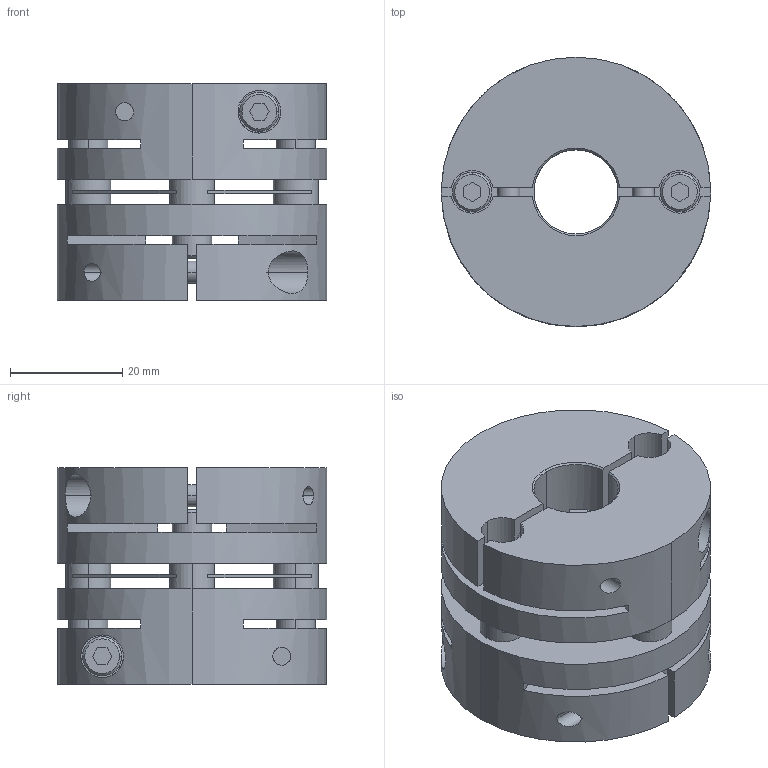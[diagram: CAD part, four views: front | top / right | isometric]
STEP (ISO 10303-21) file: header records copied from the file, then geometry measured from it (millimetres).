
FILE_DESCRIPTION((''),'2;1');
FILE_NAME('LAS-48C-15×19.stp','2011-08-09T16:58:21',(''),(''),'AutoCAD STEP 2000i','AutoCAD 2000i',', , ');
FILE_SCHEMA(('CONFIG_CONTROL_DESIGN'));
Length unit declared in the file: millimetre
Products named in the file (6): LAS-48C-12×19; 忣兜1; LA-4802-D19; LA-4802-D12-1; LA-4802-D12; LAS48-ITA
Assembly tree (5 placements, depth 2):
  LAS-48C-12×19
    忣兜1
    LA-4802-D19
    LA-4802-D12-1
    LA-4802-D12
    LAS48-ITA
Bounding box: 48 x 48 x 38.6 mm (x, y, z)
Volume: 48380.1 mm3; surface area: 22153.5 mm2
Topology: 1 solids, 1 shells, 224 faces, 600 edges, 392 vertices
Faces by surface type: plane 112, cylinder 84, cone 28
Entity records: 7841 total; most frequent: CARTESIAN_POINT 1878, DIRECTION 1256, ORIENTED_EDGE 1200, EDGE_CURVE 600, AXIS2_PLACEMENT_3D 458, VERTEX_POINT 392, VECTOR 340, LINE 340
